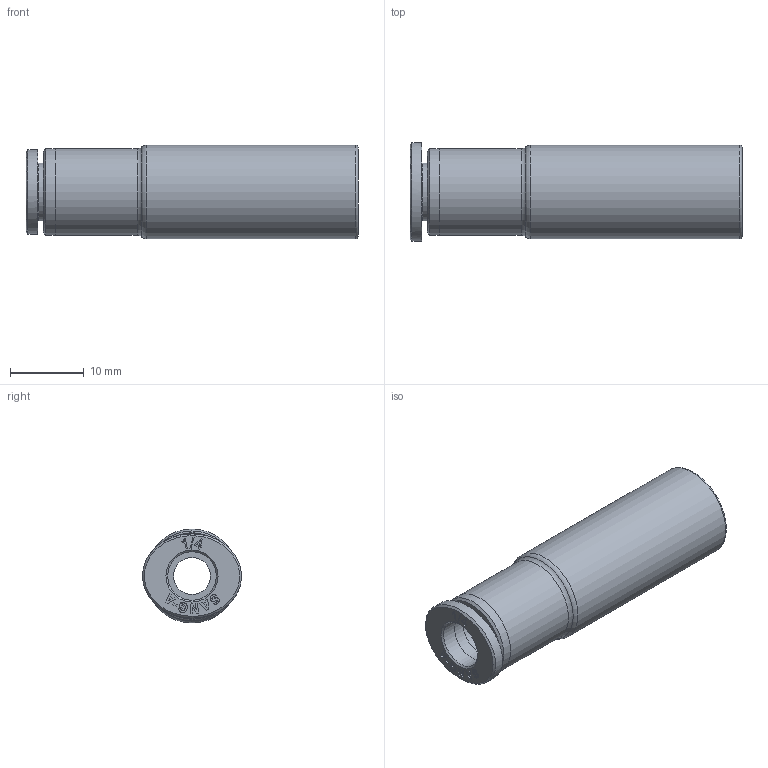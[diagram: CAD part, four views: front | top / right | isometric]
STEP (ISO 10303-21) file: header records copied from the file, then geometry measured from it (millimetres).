
FILE_DESCRIPTION((''),'2;1');
FILE_NAME('C:\Users\user0117\Desktop\김진일\홈페이지\1_4\Internet\GPGJ 1_2-1_4.stp','2019-09-02T10:03:33',('user0117'),(''),'Autodesk Inventor 2013','Autodesk Inventor 2013','');
FILE_SCHEMA(('AUTOMOTIVE_DESIGN { 1 0 10303 214 1 1 1 1 }'));
Length unit declared in the file: millimetre
Products named in the file (5): GPGJ 1_2-1_4; GPGJ BODY 1-2 1-4(PLASTIC); G-COLLAR G1-4L; COLLAR G1-4L; SLEEVE G1-4
Assembly tree (4 placements, depth 3):
  GPGJ 1_2-1_4
    GPGJ BODY 1-2 1-4(PLASTIC)
    G-COLLAR G1-4L
      COLLAR G1-4L
      SLEEVE G1-4
Bounding box: 44.95 x 13.39 x 12.7 mm (x, y, z)
Volume: 2494.3 mm3; surface area: 3491 mm2
Topology: 3 solids, 3 shells, 142 faces, 359 edges, 238 vertices
Faces by surface type: plane 98, bspline 22, cylinder 15, cone 4, torus 3
Full cylindrical faces by diameter (mm): 5 x1, 6.55 x3, 7.85 x1, 10.2 x1, 11.7 x2, 12.7 x1
Entity records: 4624 total; most frequent: CARTESIAN_POINT 1166, ORIENTED_EDGE 674, DIRECTION 661, EDGE_CURVE 337, VECTOR 257, LINE 257, VERTEX_POINT 233, AXIS2_PLACEMENT_3D 202
